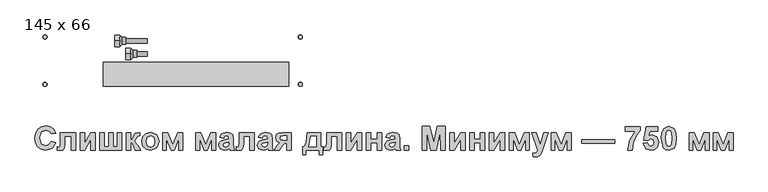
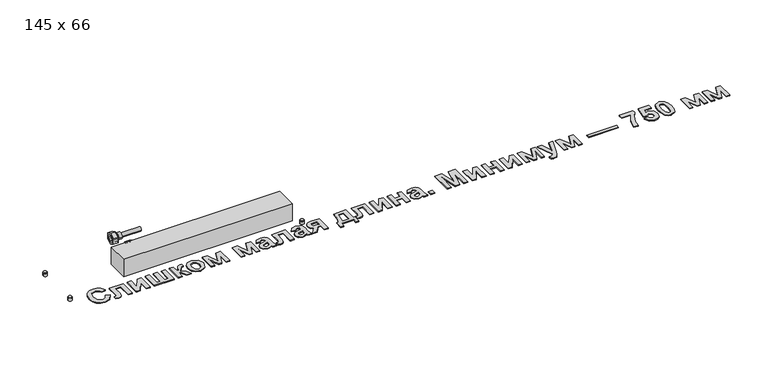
"""IFC4 building model written with IfcOpenShell, lengths in millimetres: proxy geometry, Mohlenhof_Внутрипольный конвектор_QSKM : 145 x 66."""

from ifc_helpers import new_model, si_unit, point, frame, frame_2d, origin, origin_with_axes, place, context, project, spatial, polyline, circle_curve, trimmed, segment, composite_curve, outline, extrude, source, transform, mapped, element, save
from ifc_brep_helpers import plane_surface, cylinder_surface, revolved_surface, advanced_brep


def proxy_145_x_66_126cd703(model_context):
    return source(origin(), model_context, "Body", "SolidModel", [
        extrude(outline(polyline([(-261.9427049, -345.5664876), (-252.2259487, -348.8054063), (-259.8804246, -361.0082857), (-273.4687009, -365.0), (-282.7457991, -363.2951395), (-290.2073317, -358.1805578), (-295.1226439, -350.1085651), (-296.7610813, -339.5314711), (-295.1084103, -328.416666), (-290.1503975, -320.0979587), (-282.4975031, -314.9074649), (-272.7601874, -313.1773003), (-264.2327217, -314.6038163), (-257.4765396, -318.8833642), (-252.2259487, -328.5621643), (-261.9427049, -330.1816237), (-265.9723753, -324.2541493), (-273.4307448, -322.0843268), (-283.2676952, -326.025433), (-287.0443251, -338.7850015), (-283.3815635, -352.1202372), (-273.8482617, -356.0929735), (-266.4151962, -353.5562422), (-261.9427049, -345.5664876)])), origin_with_axes(), (0.0, 0.0, 1.0), 2.0),
        extrude(outline(polyline([(-241.6994629, -327.7524346), (-209.3102756, -327.7524346), (-209.3102756, -365.0), (-219.0270317, -365.0), (-219.0270317, -335.0400017), (-231.9827067, -335.0400017), (-231.9827067, -352.2720616), (-233.4123856, -361.4953887), (-236.5753922, -364.981022), (-242.1549358, -365.8097297), (-248.1773003, -365.2150844), (-248.1773003, -358.3450342), (-244.4196485, -358.5221625), (-242.1233057, -357.1810478), (-241.6994629, -349.7163522), (-241.6994629, -327.7524346)])), origin_with_axes(), (0.0, 0.0, 1.0), 2.0),
        extrude(outline(polyline([(-199.5935194, -327.7524346), (-189.8767632, -327.7524346), (-189.8767632, -350.6652542), (-176.1113586, -327.7524346), (-166.3946024, -327.7524346), (-166.3946024, -365.0), (-176.1113586, -365.0), (-176.1113586, -342.0745284), (-189.8767632, -365.0), (-199.5935194, -365.0), (-199.5935194, -327.7524346)])), origin_with_axes(), (0.0, 0.0, 1.0), 2.0),
        extrude(outline(polyline([(-156.6778462, -327.7524346), (-146.96109, -327.7524346), (-146.96109, -357.7124329), (-138.0540635, -357.7124329), (-138.0540635, -327.7524346), (-128.3373073, -327.7524346), (-128.3373073, -357.7124329), (-119.4302808, -357.7124329), (-119.4302808, -327.7524346), (-109.7135246, -327.7524346), (-109.7135246, -365.0), (-156.6778462, -365.0), (-156.6778462, -327.7524346)])), origin_with_axes(), (0.0, 0.0, 1.0), 2.0),
        extrude(outline(polyline([(-99.9967684, -327.7524346), (-90.2800122, -327.7524346), (-90.2800122, -343.1372986), (-86.8829432, -341.6380335), (-84.4727322, -336.3052044), (-80.4240838, -329.2833298), (-74.6547598, -327.7524346), (-70.8464999, -327.9169109), (-70.8085438, -334.2302721), (-75.6669219, -334.9893936), (-77.9695907, -339.6959474), (-82.7900127, -346.211741), (-75.0216685, -354.1951695), (-69.2270405, -365.0), (-80.1457392, -365.0), (-84.7510767, -354.5747303), (-87.2055698, -350.5134299), (-90.2800122, -349.615136), (-90.2800122, -365.0), (-99.9967684, -365.0), (-99.9967684, -327.7524346)])), origin_with_axes(), (0.0, 0.0, 1.0), 2.0),
        extrude(outline(polyline([(-66.7978514, -345.8448322), (-64.4002925, -336.3621385), (-57.6124804, -329.3592419), (-47.80716, -326.9427049), (-34.0860375, -332.4210323), (-28.7405564, -346.2750011), (-34.1429716, -360.2618162), (-47.7312478, -365.8097297), (-57.4037219, -363.5007349), (-64.4002925, -356.7255748), (-66.7978514, -345.8448322)]), holes=[polyline([(-57.0810952, -346.3762173), (-54.3925397, -355.390786), (-47.7565519, -358.5221625), (-41.1332161, -355.390786), (-38.4573126, -346.3003051), (-41.1332161, -337.3616486), (-47.7565519, -334.2302721), (-54.3925397, -337.3616486), (-57.0810952, -346.3762173)])]), origin_with_axes(), (0.0, 0.0, 1.0), 2.0),
        extrude(outline(polyline([(-21.4529892, -327.7524346), (-10.3318581, -327.7524346), (0.0048474, -353.7017405), (10.4427691, -327.7524346), (21.462684, -327.7524346), (21.462684, -365.0), (13.3653871, -365.0), (13.3653871, -340.4803731), (3.4968066, -365.0), (-3.5883281, -365.0), (-13.3556924, -340.4803731), (-13.3556924, -365.0), (-21.4529892, -365.0), (-21.4529892, -327.7524346)])), origin_with_axes(), (0.0, 0.0, 1.0), 2.0),
        extrude(outline(polyline([(49.8032228, -327.7524346), (60.924354, -327.7524346), (71.2610594, -353.7017405), (81.6989811, -327.7524346), (92.718896, -327.7524346), (92.718896, -365.0), (84.6215992, -365.0), (84.6215992, -340.4803731), (74.7530187, -365.0), (67.667884, -365.0), (57.9005197, -340.4803731), (57.9005197, -365.0), (49.8032228, -365.0), (49.8032228, -327.7524346)])), origin_with_axes(), (0.0, 0.0, 1.0), 2.0),
        extrude(outline(polyline([(109.7232193, -339.0886502), (100.8161928, -337.4691908), (105.706201, -329.5237183), (116.0112764, -326.9427049), (125.2599076, -328.5052302), (129.5362925, -332.4653144), (130.7761911, -341.2774507), (130.7761911, -352.7654906), (131.2885982, -360.0024496), (133.2053801, -365.0), (123.488624, -365.0), (122.5776781, -361.9129056), (117.0360905, -364.525549), (111.1275943, -365.8097297), (102.3913701, -362.6910052), (99.1967335, -354.8151188), (100.6200864, -349.1976192), (104.6118007, -345.4146633), (112.0132361, -343.1246465), (121.0594349, -340.7081095), (119.8511664, -335.4828227), (115.3027629, -334.2302721), (111.7728476, -335.3056943), (109.7232193, -339.0886502)]), holes=[polyline([(121.0594349, -347.9956767), (115.5811075, -349.3431175), (110.6721213, -350.8803387), (108.9134897, -353.9800851), (110.3241906, -357.1747217), (113.91104, -358.5221625), (118.5543337, -356.9533113), (120.7051782, -354.0433452), (121.0594349, -349.7543083), (121.0594349, -347.9956767)])]), origin_with_axes(), (0.0, 0.0, 1.0), 2.0),
        extrude(outline(polyline([(142.9221363, -327.7524346), (175.3113236, -327.7524346), (175.3113236, -365.0), (165.5945674, -365.0), (165.5945674, -335.0400017), (152.6388925, -335.0400017), (152.6388925, -352.2720616), (151.2092135, -361.4953887), (148.046207, -364.981022), (142.4666634, -365.8097297), (136.4442989, -365.2150844), (136.4442989, -358.3450342), (140.2019507, -358.5221625), (142.4982934, -357.1810478), (142.9221363, -349.7163522), (142.9221363, -327.7524346)])), origin_with_axes(), (0.0, 0.0, 1.0), 2.0),
        extrude(outline(polyline([(193.1253766, -339.0886502), (184.2183501, -337.4691908), (189.1083583, -329.5237183), (199.4134337, -326.9427049), (208.6620649, -328.5052302), (212.9384498, -332.4653144), (214.1783484, -341.2774507), (214.1783484, -352.7654906), (214.6907555, -360.0024496), (216.6075374, -365.0), (206.8907812, -365.0), (205.9798354, -361.9129056), (200.4382478, -364.525549), (194.5297516, -365.8097297), (185.7935274, -362.6910052), (182.5988908, -354.8151188), (184.0222437, -349.1976192), (188.013958, -345.4146633), (195.4153934, -343.1246465), (204.4615922, -340.7081095), (203.2533237, -335.4828227), (198.7049202, -334.2302721), (195.1750049, -335.3056943), (193.1253766, -339.0886502)]), holes=[polyline([(204.4615922, -347.9956767), (198.9832648, -349.3431175), (194.0742786, -350.8803387), (192.315647, -353.9800851), (193.7263479, -357.1747217), (197.3131973, -358.5221625), (201.956491, -356.9533113), (204.1073355, -354.0433452), (204.4615922, -349.7543083), (204.4615922, -347.9956767)])]), origin_with_axes(), (0.0, 0.0, 1.0), 2.0),
        extrude(outline(polyline([(255.4745622, -327.7524346), (255.4745622, -365.0), (245.757806, -365.0), (245.757806, -350.4248657), (240.2035665, -351.2029653), (236.9140396, -354.4861662), (229.866861, -365.0), (218.2269968, -365.0), (225.2994795, -354.8151188), (230.5753745, -349.6910482), (223.9899948, -346.4331514), (221.4659155, -338.7596975), (223.1676131, -332.3451201), (227.6907125, -328.7203146), (236.0916579, -327.7524346), (255.4745622, -327.7524346)]), holes=[polyline([(245.757806, -334.2302721), (238.4702389, -334.2302721), (232.8147831, -335.3499764), (231.1826717, -339.0759981), (233.0298676, -342.8083459), (239.0901882, -343.9470283), (245.757806, -343.9470283), (245.757806, -334.2302721)])]), origin_with_axes(), (0.0, 0.0, 1.0), 2.0),
        extrude(outline(polyline([(315.3945587, -365.0), (287.0540198, -365.0), (287.0540198, -374.7167562), (279.7664527, -374.7167562), (279.7664527, -357.7124329), (283.8151011, -357.7124329), (287.6676431, -348.7105162), (289.4832089, -327.7524346), (318.6334774, -327.7524346), (318.6334774, -357.7124329), (322.6821258, -357.7124329), (322.6821258, -374.7167562), (315.3945587, -374.7167562), (315.3945587, -365.0)]), holes=[polyline([(308.9167212, -357.7124329), (308.9167212, -335.0400017), (297.5805057, -335.0400017), (293.5318573, -357.7124329), (308.9167212, -357.7124329)])]), origin_with_axes(), (0.0, 0.0, 1.0), 2.0),
        extrude(outline(polyline([(331.5891524, -327.7524346), (363.9783397, -327.7524346), (363.9783397, -365.0), (354.2615835, -365.0), (354.2615835, -335.0400017), (341.3059085, -335.0400017), (341.3059085, -352.2720616), (339.8762296, -361.4953887), (336.713223, -364.981022), (331.1336794, -365.8097297), (325.1113149, -365.2150844), (325.1113149, -358.3450342), (328.8689667, -358.5221625), (331.1653095, -357.1810478), (331.5891524, -349.7163522), (331.5891524, -327.7524346)])), origin_with_axes(), (0.0, 0.0, 1.0), 2.0),
        extrude(outline(polyline([(373.6950958, -327.7524346), (383.411852, -327.7524346), (383.411852, -350.6652542), (397.1772566, -327.7524346), (406.8940128, -327.7524346), (406.8940128, -365.0), (397.1772566, -365.0), (397.1772566, -342.0745284), (383.411852, -365.0), (373.6950958, -365.0), (373.6950958, -327.7524346)])), origin_with_axes(), (0.0, 0.0, 1.0), 2.0),
        extrude(outline(polyline([(416.610769, -327.7524346), (426.3275252, -327.7524346), (426.3275252, -341.5178392), (440.0929298, -341.5178392), (440.0929298, -327.7524346), (449.809686, -327.7524346), (449.809686, -365.0), (440.0929298, -365.0), (440.0929298, -348.8054063), (426.3275252, -348.8054063), (426.3275252, -365.0), (416.610769, -365.0), (416.610769, -327.7524346)])), origin_with_axes(), (0.0, 0.0, 1.0), 2.0),
        extrude(outline(polyline([(467.623739, -339.0886502), (458.7167125, -337.4691908), (463.6067207, -329.5237183), (473.9117961, -326.9427049), (483.1604273, -328.5052302), (487.4368122, -332.4653144), (488.6767108, -341.2774507), (488.6767108, -352.7654906), (489.1891178, -360.0024496), (491.1058998, -365.0), (481.3891436, -365.0), (480.4781977, -361.9129056), (474.9366102, -364.525549), (469.0281139, -365.8097297), (460.2918898, -362.6910052), (457.0972531, -354.8151188), (458.5206061, -349.1976192), (462.5123204, -345.4146633), (469.9137558, -343.1246465), (478.9599546, -340.7081095), (477.7516861, -335.4828227), (473.2032826, -334.2302721), (469.6733673, -335.3056943), (467.623739, -339.0886502)]), holes=[polyline([(478.9599546, -347.9956767), (473.4816272, -349.3431175), (468.572641, -350.8803387), (466.8140093, -353.9800851), (468.2247103, -357.1747217), (471.8115597, -358.5221625), (476.4548534, -356.9533113), (478.6056978, -354.0433452), (478.9599546, -349.7543083), (478.9599546, -347.9956767)])]), origin_with_axes(), (0.0, 0.0, 1.0), 2.0),
        extrude(outline(polyline([(498.393467, -365.0), (498.393467, -355.2832438), (508.1102231, -355.2832438), (508.1102231, -365.0), (498.393467, -365.0)])), origin_with_axes(), (0.0, 0.0, 1.0), 2.0),
        extrude(outline(polyline([(537.2604917, -365.0), (537.2604917, -313.98703), (553.9105583, -313.98703), (561.957247, -348.7801023), (570.0039357, -313.98703), (586.6540023, -313.98703), (586.6540023, -365.0), (576.9372462, -365.0), (576.5323813, -324.8424686), (567.6506589, -365.0), (556.2764872, -365.0), (547.3821127, -324.8424686), (546.9772479, -365.0), (537.2604917, -365.0)])), origin_with_axes(), (0.0, 0.0, 1.0), 2.0),
        extrude(outline(polyline([(596.3707585, -327.7524346), (606.0875147, -327.7524346), (606.0875147, -350.6652542), (619.8529193, -327.7524346), (629.5696755, -327.7524346), (629.5696755, -365.0), (619.8529193, -365.0), (619.8529193, -342.0745284), (606.0875147, -365.0), (596.3707585, -365.0), (596.3707585, -327.7524346)])), origin_with_axes(), (0.0, 0.0, 1.0), 2.0),
        extrude(outline(polyline([(639.2864317, -327.7524346), (649.0031879, -327.7524346), (649.0031879, -341.5178392), (662.7685925, -341.5178392), (662.7685925, -327.7524346), (672.4853487, -327.7524346), (672.4853487, -365.0), (662.7685925, -365.0), (662.7685925, -348.8054063), (649.0031879, -348.8054063), (649.0031879, -365.0), (639.2864317, -365.0), (639.2864317, -327.7524346)])), origin_with_axes(), (0.0, 0.0, 1.0), 2.0),
        extrude(outline(polyline([(682.2021049, -327.7524346), (691.9188611, -327.7524346), (691.9188611, -350.6652542), (705.6842657, -327.7524346), (715.4010219, -327.7524346), (715.4010219, -365.0), (705.6842657, -365.0), (705.6842657, -342.0745284), (691.9188611, -365.0), (682.2021049, -365.0), (682.2021049, -327.7524346)])), origin_with_axes(), (0.0, 0.0, 1.0), 2.0),
        extrude(outline(polyline([(725.1177781, -327.7524346), (736.2389092, -327.7524346), (746.5756146, -353.7017405), (757.0135363, -327.7524346), (768.0334512, -327.7524346), (768.0334512, -365.0), (759.9361544, -365.0), (759.9361544, -340.4803731), (750.0675739, -365.0), (742.9824392, -365.0), (733.2150749, -340.4803731), (733.2150749, -365.0), (725.1177781, -365.0), (725.1177781, -327.7524346)])), origin_with_axes(), (0.0, 0.0, 1.0), 2.0),
        extrude(outline(polyline([(772.8918293, -327.7524346), (782.6085855, -327.7524346), (791.1107472, -354.1192574), (799.6129088, -327.7524346), (809.329665, -327.7524346), (796.7282468, -363.4438008), (794.387622, -370.0734625), (792.0786272, -374.7926683), (789.5545479, -377.4369418), (786.0436106, -379.0121191), (781.3433829, -379.5751343), (776.130748, -379.0184451), (775.3210184, -371.8194422), (779.1798864, -372.2875671), (783.8674621, -370.2316129), (786.201761, -365.0), (772.8918293, -327.7524346)])), origin_with_axes(), (0.0, 0.0, 1.0), 2.0),
        extrude(outline(polyline([(814.9977728, -327.7524346), (826.1189039, -327.7524346), (836.4556094, -353.7017405), (846.8935311, -327.7524346), (857.913446, -327.7524346), (857.913446, -365.0), (849.8161492, -365.0), (849.8161492, -340.4803731), (839.9475687, -365.0), (832.8624339, -365.0), (823.0950696, -340.4803731), (823.0950696, -365.0), (814.9977728, -365.0), (814.9977728, -327.7524346)])), origin_with_axes(), (0.0, 0.0, 1.0), 2.0),
        extrude(outline(polyline([(881.3956068, -350.4248657), (881.3956068, -343.1372986), (951.8420892, -343.1372986), (951.8420892, -350.4248657), (881.3956068, -350.4248657)])), origin_with_axes(), (0.0, 0.0, 1.0), 2.0),
        extrude(outline(polyline([(974.5145203, -324.5135159), (974.5145203, -314.7967597), (1006.9037076, -314.7967597), (1006.9037076, -322.0843268), (998.5596962, -333.698887), (992.0881848, -349.7796124), (989.8993842, -365.0), (980.182628, -365.0), (984.6171633, -343.814182), (995.7952285, -324.5135159), (974.5145203, -324.5135159)])), origin_with_axes(), (0.0, 0.0, 1.0), 2.0),
        extrude(outline(polyline([(1013.381545, -350.6399502), (1022.2885715, -349.615136), (1024.7683687, -354.9416391), (1029.5255306, -356.9027032), (1034.7318394, -354.8214449), (1036.8637058, -348.5523658), (1034.8836637, -342.6691736), (1029.727963, -340.7081095), (1022.6175242, -344.7567579), (1014.1912747, -343.5042073), (1019.8593825, -314.7967597), (1044.151273, -314.7967597), (1044.151273, -324.5135159), (1027.7162908, -324.5135159), (1025.7552267, -333.7874511), (1032.0179797, -331.801083), (1042.3420332, -336.4000946), (1046.580462, -348.3372814), (1043.0505467, -359.2559801), (1037.2970377, -364.1712923), (1029.6773549, -365.8097297), (1018.5372457, -361.6978211), (1013.381545, -350.6399502)])), origin_with_axes(), (0.0, 0.0, 1.0), 2.0),
        extrude(outline(polyline([(1068.4431634, -313.98703), (1079.766727, -319.2502729), (1083.4199996, -327.5278611), (1084.6377571, -339.9110319), (1083.4136735, -352.2942026), (1079.7414229, -360.6223989), (1068.4431634, -365.8097297), (1061.8720173, -364.3863767), (1056.7084091, -360.1163179), (1052.2485698, -339.8098157), (1053.4726533, -327.483579), (1057.144904, -319.1743608), (1068.4431634, -313.98703)]), holes=[polyline([(1068.4431634, -322.8940565), (1065.2042447, -323.9631527), (1063.0027921, -327.8030427), (1061.965326, -339.9110319), (1062.8889239, -351.6078302), (1065.2232227, -355.846259), (1068.4431634, -356.9027032), (1071.6820822, -355.833607), (1073.8835347, -351.993717), (1074.9210009, -339.9110319), (1073.997403, -328.2205596), (1071.6631041, -323.9631527), (1068.4431634, -322.8940565)])]), origin_with_axes(), (0.0, 0.0, 1.0), 2.0),
        extrude(outline(polyline([(1112.1685663, -327.7524346), (1123.2896974, -327.7524346), (1133.6264029, -353.7017405), (1144.0643246, -327.7524346), (1155.0842395, -327.7524346), (1155.0842395, -365.0), (1146.9869426, -365.0), (1146.9869426, -340.4803731), (1137.1183621, -365.0), (1130.0332274, -365.0), (1120.2658631, -340.4803731), (1120.2658631, -365.0), (1112.1685663, -365.0), (1112.1685663, -327.7524346)])), origin_with_axes(), (0.0, 0.0, 1.0), 2.0),
        extrude(outline(polyline([(1163.991266, -327.7524346), (1175.1123971, -327.7524346), (1185.4491026, -353.7017405), (1195.8870242, -327.7524346), (1206.9069391, -327.7524346), (1206.9069391, -365.0), (1198.8096423, -365.0), (1198.8096423, -340.4803731), (1188.9410618, -365.0), (1181.8559271, -365.0), (1172.0885628, -340.4803731), (1172.0885628, -365.0), (1163.991266, -365.0), (1163.991266, -327.7524346)])), origin_with_axes(), (0.0, 0.0, 1.0), 2.0),
        advanced_brep(
        [(-90.0, -158.0, -47.5), (-90.0, -146.0, -47.5), (-90.0, -170.0, -47.5), (-77.5, -165.5, -47.5), (-77.5, -150.5, -47.5), (-77.5, -158.0, -47.5), (-85.0, -165.5, -47.5), (-85.0, -150.5, -47.5)],
        [
            (0, 1),
            (1, 2, circle_curve(frame((-90.0, -158.0, -47.5), z_axis=(-1.0, 0.0, 0.0), x_axis=(0.0, 1.0, 0.0)), 12.0)),
            (2, 0),
            (2, 1, circle_curve(frame((-90.0, -158.0, -47.5), z_axis=(-1.0, 0.0, 0.0), x_axis=(0.0, 1.0, 0.0)), 12.0)),
            (3, 4, circle_curve(frame((-77.5, -158.0, -47.5), z_axis=(1.0, 0.0, 0.0), x_axis=(0.0, 1.0, 0.0)), 7.5)),
            (4, 5),
            (5, 3),
            (4, 3, circle_curve(frame((-77.5, -158.0, -47.5), z_axis=(1.0, 0.0, 0.0), x_axis=(0.0, 1.0, 0.0)), 7.5)),
            (6, 7, circle_curve(frame((-85.0, -158.0, -47.5), z_axis=(1.0, 0.0, 0.0), x_axis=(0.0, 1.0, 0.0)), 7.5)),
            (7, 4),
            (3, 6),
            (7, 6, circle_curve(frame((-85.0, -158.0, -47.5), z_axis=(1.0, 0.0, 0.0), x_axis=(0.0, 1.0, 0.0)), 7.5)),
            (1, 7),
            (6, 2),
        ],
        [
            plane_surface(frame((-90.0, -158.0, -47.5), z_axis=(-1.0, 0.0, 0.0), x_axis=(0.0, 1.0, 0.0))),
            plane_surface(frame((-77.5, -158.0, -47.5), z_axis=(1.0, 0.0, 0.0), x_axis=(0.0, 1.0, 0.0))),
            cylinder_surface(frame((-90.0, -158.0, -47.5), z_axis=(-1.0, 0.0, 0.0), x_axis=(0.0, 1.0, 0.0)), 7.5),
            revolved_surface(polyline([(-85.0, -150.5, -47.5), (-90.0, -146.0, -47.5)]), (-90.0, -158.0, -47.5), (-1.0, 0.0, 0.0)),
        ],
        [
            (0, [[1, 2, 3]]),
            (0, [[-3, 4, -1]]),
            (1, [[5, 6, 7]]),
            (1, [[8, -7, -6]]),
            (2, [[9, 10, -5, 11]]),
            (2, [[12, -11, -8, -10]]),
            (3, [[-2, 13, -9, 14]]),
            (3, [[-4, -14, -12, -13]]),
        ],
    ),
        extrude(outline(polyline([(-158.0, -33.6435935), (-146.0, -40.5717968), (-146.0, -54.4282032), (-158.0, -61.3564065), (-170.0, -54.4282032), (-170.0, -40.5717968), (-158.0, -33.6435935)]), holes=[composite_curve([segment(trimmed(circle_curve(frame_2d((-158.0, -47.5)), 8.5), [point((-149.5, -47.5))], [point((-166.5, -47.5))], True, "CARTESIAN"), True, "CONTINUOUS"), segment(trimmed(circle_curve(frame_2d((-158.0, -47.5)), 8.5), [point((-166.5, -47.5))], [point((-149.5, -47.5))], True, "CARTESIAN"), True, "CONTINUOUS")], self_intersect=False)]), frame((-101.0, 0.0, 0.0), z_axis=(1.0, 0.0, 0.0), x_axis=(0.0, 1.0, 0.0)), (0.0, 0.0, 1.0), 11.0),
        advanced_brep(
        [(-114.0, -130.0, -34.5), (-114.0, -118.0, -34.5), (-114.0, -142.0, -34.5), (-101.5, -137.5, -34.5), (-101.5, -122.5, -34.5), (-101.5, -130.0, -34.5), (-109.0, -137.5, -34.5), (-109.0, -122.5, -34.5)],
        [
            (0, 1),
            (1, 2, circle_curve(frame((-114.0, -130.0, -34.5), z_axis=(-1.0, 0.0, 0.0), x_axis=(0.0, 1.0, 0.0)), 12.0)),
            (2, 0),
            (2, 1, circle_curve(frame((-114.0, -130.0, -34.5), z_axis=(-1.0, 0.0, 0.0), x_axis=(0.0, 1.0, 0.0)), 12.0)),
            (3, 4, circle_curve(frame((-101.5, -130.0, -34.5), z_axis=(1.0, 0.0, 0.0), x_axis=(0.0, 1.0, 0.0)), 7.5)),
            (4, 5),
            (5, 3),
            (4, 3, circle_curve(frame((-101.5, -130.0, -34.5), z_axis=(1.0, 0.0, 0.0), x_axis=(0.0, 1.0, 0.0)), 7.5)),
            (6, 7, circle_curve(frame((-109.0, -130.0, -34.5), z_axis=(1.0, 0.0, 0.0), x_axis=(0.0, 1.0, 0.0)), 7.5)),
            (7, 4),
            (3, 6),
            (7, 6, circle_curve(frame((-109.0, -130.0, -34.5), z_axis=(1.0, 0.0, 0.0), x_axis=(0.0, 1.0, 0.0)), 7.5)),
            (1, 7),
            (6, 2),
        ],
        [
            plane_surface(frame((-114.0, -130.0, -34.5), z_axis=(-1.0, 0.0, 0.0), x_axis=(0.0, 1.0, 0.0))),
            plane_surface(frame((-101.5, -130.0, -34.5), z_axis=(1.0, 0.0, 0.0), x_axis=(0.0, 1.0, 0.0))),
            cylinder_surface(frame((-114.0, -130.0, -34.5), z_axis=(-1.0, 0.0, 0.0), x_axis=(0.0, 1.0, 0.0)), 7.5),
            revolved_surface(polyline([(-109.0, -122.5, -34.5), (-114.0, -118.0, -34.5)]), (-114.0, -130.0, -34.5), (-1.0, 0.0, 0.0)),
        ],
        [
            (0, [[1, 2, 3]]),
            (0, [[-3, 4, -1]]),
            (1, [[5, 6, 7]]),
            (1, [[8, -7, -6]]),
            (2, [[9, 10, -5, 11]]),
            (2, [[12, -11, -8, -10]]),
            (3, [[-2, 13, -9, 14]]),
            (3, [[-4, -14, -12, -13]]),
        ],
    ),
        extrude(outline(polyline([(-130.0, -20.6435935), (-118.0, -27.5717968), (-118.0, -41.4282032), (-130.0, -48.3564065), (-142.0, -41.4282032), (-142.0, -27.5717968), (-130.0, -20.6435935)]), holes=[composite_curve([segment(trimmed(circle_curve(frame_2d((-130.0, -34.5)), 8.5), [point((-121.5, -34.5))], [point((-138.5, -34.5))], True, "CARTESIAN"), True, "CONTINUOUS"), segment(trimmed(circle_curve(frame_2d((-130.0, -34.5)), 8.5), [point((-138.5, -34.5))], [point((-121.5, -34.5))], True, "CARTESIAN"), True, "CONTINUOUS")], self_intersect=False)]), frame((-125.0, 0.0, 0.0), z_axis=(1.0, 0.0, 0.0), x_axis=(0.0, 1.0, 0.0)), (0.0, 0.0, 1.0), 11.0),
        extrude(outline(composite_curve([segment(trimmed(circle_curve(frame_2d((-275.0, -223.5)), 4.5), [point((-279.5, -223.5))], [point((-270.5, -223.5))], False, "CARTESIAN"), True, "CONTINUOUS"), segment(trimmed(circle_curve(frame_2d((-275.0, -223.5)), 4.5), [point((-270.5, -223.5))], [point((-279.5, -223.5))], False, "CARTESIAN"), True, "CONTINUOUS")], self_intersect=False)), frame((0.0, 0.0, -79.0), z_axis=(0.0, 0.0, 1.0), x_axis=(1.0, 0.0, 0.0)), (0.0, 0.0, 1.0), 7.0),
        extrude(outline(composite_curve([segment(trimmed(circle_curve(frame_2d((-275.0, -223.5)), 4.0), [point((-279.0, -223.5))], [point((-271.0, -223.5))], False, "CARTESIAN"), True, "CONTINUOUS"), segment(trimmed(circle_curve(frame_2d((-275.0, -223.5)), 4.0), [point((-271.0, -223.5))], [point((-279.0, -223.5))], False, "CARTESIAN"), True, "CONTINUOUS")], self_intersect=False)), frame((0.0, 0.0, -72.0), z_axis=(0.0, 0.0, 1.0), x_axis=(1.0, 0.0, 0.0)), (0.0, 0.0, 1.0), 1.5),
        extrude(outline(composite_curve([segment(trimmed(circle_curve(frame_2d((-275.0, -121.5)), 4.5), [point((-279.5, -121.5))], [point((-270.5, -121.5))], False, "CARTESIAN"), True, "CONTINUOUS"), segment(trimmed(circle_curve(frame_2d((-275.0, -121.5)), 4.5), [point((-270.5, -121.5))], [point((-279.5, -121.5))], False, "CARTESIAN"), True, "CONTINUOUS")], self_intersect=False)), frame((0.0, 0.0, -79.0), z_axis=(0.0, 0.0, 1.0), x_axis=(1.0, 0.0, 0.0)), (0.0, 0.0, 1.0), 7.0),
        extrude(outline(composite_curve([segment(trimmed(circle_curve(frame_2d((-275.0, -121.5)), 4.0), [point((-279.0, -121.5))], [point((-271.0, -121.5))], False, "CARTESIAN"), True, "CONTINUOUS"), segment(trimmed(circle_curve(frame_2d((-275.0, -121.5)), 4.0), [point((-271.0, -121.5))], [point((-279.0, -121.5))], False, "CARTESIAN"), True, "CONTINUOUS")], self_intersect=False)), frame((0.0, 0.0, -72.0), z_axis=(0.0, 0.0, 1.0), x_axis=(1.0, 0.0, 0.0)), (0.0, 0.0, 1.0), 1.5),
        extrude(outline(composite_curve([segment(trimmed(circle_curve(frame_2d((275.0, -223.5)), 4.5), [point((270.5, -223.5))], [point((279.5, -223.5))], False, "CARTESIAN"), True, "CONTINUOUS"), segment(trimmed(circle_curve(frame_2d((275.0, -223.5)), 4.5), [point((279.5, -223.5))], [point((270.5, -223.5))], False, "CARTESIAN"), True, "CONTINUOUS")], self_intersect=False)), frame((0.0, 0.0, -79.0), z_axis=(0.0, 0.0, 1.0), x_axis=(1.0, 0.0, 0.0)), (0.0, 0.0, 1.0), 7.0),
        extrude(outline(composite_curve([segment(trimmed(circle_curve(frame_2d((275.0, -223.5)), 4.0), [point((271.0, -223.5))], [point((279.0, -223.5))], False, "CARTESIAN"), True, "CONTINUOUS"), segment(trimmed(circle_curve(frame_2d((275.0, -223.5)), 4.0), [point((279.0, -223.5))], [point((271.0, -223.5))], False, "CARTESIAN"), True, "CONTINUOUS")], self_intersect=False)), frame((0.0, 0.0, -72.0), z_axis=(0.0, 0.0, 1.0), x_axis=(1.0, 0.0, 0.0)), (0.0, 0.0, 1.0), 1.5),
        extrude(outline(composite_curve([segment(trimmed(circle_curve(frame_2d((275.0, -121.5)), 4.5), [point((270.5, -121.5))], [point((279.5, -121.5))], False, "CARTESIAN"), True, "CONTINUOUS"), segment(trimmed(circle_curve(frame_2d((275.0, -121.5)), 4.5), [point((279.5, -121.5))], [point((270.5, -121.5))], False, "CARTESIAN"), True, "CONTINUOUS")], self_intersect=False)), frame((0.0, 0.0, -79.0), z_axis=(0.0, 0.0, 1.0), x_axis=(1.0, 0.0, 0.0)), (0.0, 0.0, 1.0), 7.0),
        extrude(outline(composite_curve([segment(trimmed(circle_curve(frame_2d((275.0, -121.5)), 4.0), [point((271.0, -121.5))], [point((279.0, -121.5))], False, "CARTESIAN"), True, "CONTINUOUS"), segment(trimmed(circle_curve(frame_2d((275.0, -121.5)), 4.0), [point((279.0, -121.5))], [point((271.0, -121.5))], False, "CARTESIAN"), True, "CONTINUOUS")], self_intersect=False)), frame((0.0, 0.0, -72.0), z_axis=(0.0, 0.0, 1.0), x_axis=(1.0, 0.0, 0.0)), (0.0, 0.0, 1.0), 1.5),
        extrude(outline(polyline([(250.0, -175.87), (250.0, -227.18), (-150.0, -227.18), (-150.0, -175.87), (250.0, -175.87)])), frame((0.0, 0.0, -62.5), z_axis=(0.0, 0.0, 1.0), x_axis=(1.0, 0.0, 0.0)), (0.0, 0.0, 1.0), 43.62),
        extrude(outline(composite_curve([segment(trimmed(circle_curve(frame_2d((-158.0, -47.5)), 5.0), [point((-163.0, -47.5))], [point((-153.0, -47.5))], False, "CARTESIAN"), True, "CONTINUOUS"), segment(trimmed(circle_curve(frame_2d((-158.0, -47.5)), 5.0), [point((-153.0, -47.5))], [point((-163.0, -47.5))], False, "CARTESIAN"), True, "CONTINUOUS")], self_intersect=False)), frame((-101.0, 0.0, 0.0), z_axis=(1.0, 0.0, 0.0), x_axis=(0.0, 1.0, 0.0)), (0.0, 0.0, 1.0), 46.0),
        extrude(outline(composite_curve([segment(trimmed(circle_curve(frame_2d((-130.0, -34.5)), 5.0), [point((-135.0, -34.5))], [point((-125.0, -34.5))], False, "CARTESIAN"), True, "CONTINUOUS"), segment(trimmed(circle_curve(frame_2d((-130.0, -34.5)), 5.0), [point((-125.0, -34.5))], [point((-135.0, -34.5))], False, "CARTESIAN"), True, "CONTINUOUS")], self_intersect=False)), frame((-125.0, 0.0, 0.0), z_axis=(1.0, 0.0, 0.0), x_axis=(0.0, 1.0, 0.0)), (0.0, 0.0, 1.0), 70.0),
    ])


if __name__ == "__main__":
    model = new_model("IFC4")
    model_context = context("Model", 3, world=origin())
    ifc_project = project(units=[si_unit("LENGTHUNIT", "METRE", prefix="MILLI")], contexts=[model_context])
    site = spatial("IfcSite", under=ifc_project)
    building = spatial("IfcBuilding", under=site)
    placement = place(None, origin())
    proxy_145_x_66_shape = proxy_145_x_66_126cd703(model_context)
    element("IfcBuildingElementProxy", 1, Name="Mohlenhof_Внутрипольный конвектор_QSKM : 145 x 66", ObjectType="Mohlenhof_Внутрипольный конвектор_QSKM : 145 x 66", at=placement, inside=building, context=model_context, shape_type="MappedRepresentation", body=[
        mapped(proxy_145_x_66_shape, transform((0.0, 0.0, 0.0), x_axis=(1.0, 0.0, 0.0), y_axis=(0.0, 1.0, 0.0), z_axis=(0.0, 0.0, 1.0))),
    ])
    save(model, "model.ifc")
